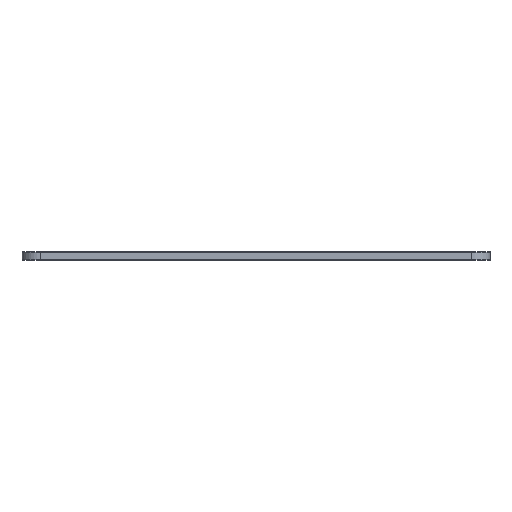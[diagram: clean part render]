
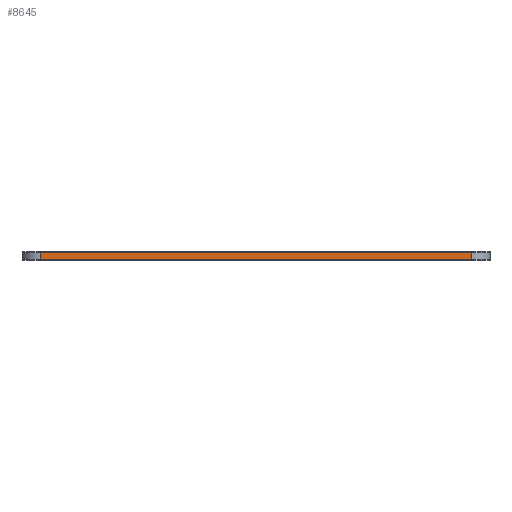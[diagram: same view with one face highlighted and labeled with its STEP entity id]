
A CAD part, front view. The second image highlights one B-rep face of the part: STEP entity #8645.
In plain terms, the highlighted planar face has unit normal (0, -1, 0).
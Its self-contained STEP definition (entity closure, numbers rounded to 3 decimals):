
#4628 = VERTEX_POINT('',#4629);
#4629 = CARTESIAN_POINT('',(3.5,-170.,0.));
#4636 = EDGE_CURVE('',#4637,#4628,#4639,.T.);
#4637 = VERTEX_POINT('',#4638);
#4638 = CARTESIAN_POINT('',(86.5,-170.,0.));
#4639 = LINE('',#4640,#4641);
#4640 = CARTESIAN_POINT('',(86.5,-170.,0.));
#4641 = VECTOR('',#4642,1.);
#4642 = DIRECTION('',(-1.,0.,0.));
#6623 = VERTEX_POINT('',#6624);
#6624 = CARTESIAN_POINT('',(3.5,-170.,1.51));
#6631 = EDGE_CURVE('',#6632,#6623,#6634,.T.);
#6632 = VERTEX_POINT('',#6633);
#6633 = CARTESIAN_POINT('',(86.5,-170.,1.51));
#6634 = LINE('',#6635,#6636);
#6635 = CARTESIAN_POINT('',(86.5,-170.,1.51));
#6636 = VECTOR('',#6637,1.);
#6637 = DIRECTION('',(-1.,0.,0.));
#8617 = EDGE_CURVE('',#4637,#6632,#8618,.T.);
#8618 = LINE('',#8619,#8620);
#8619 = CARTESIAN_POINT('',(86.5,-170.,0.));
#8620 = VECTOR('',#8621,1.);
#8621 = DIRECTION('',(0.,0.,1.));
#8645 = ADVANCED_FACE('',(#8646),#8657,.T.);
#8646 = FACE_BOUND('',#8647,.T.);
#8647 = EDGE_LOOP('',(#8648,#8649,#8650,#8656));
#8648 = ORIENTED_EDGE('',*,*,#8617,.T.);
#8649 = ORIENTED_EDGE('',*,*,#6631,.T.);
#8650 = ORIENTED_EDGE('',*,*,#8651,.F.);
#8651 = EDGE_CURVE('',#4628,#6623,#8652,.T.);
#8652 = LINE('',#8653,#8654);
#8653 = CARTESIAN_POINT('',(3.5,-170.,0.));
#8654 = VECTOR('',#8655,1.);
#8655 = DIRECTION('',(0.,0.,1.));
#8656 = ORIENTED_EDGE('',*,*,#4636,.F.);
#8657 = PLANE('',#8658);
#8658 = AXIS2_PLACEMENT_3D('',#8659,#8660,#8661);
#8659 = CARTESIAN_POINT('',(86.5,-170.,0.));
#8660 = DIRECTION('',(0.,-1.,0.));
#8661 = DIRECTION('',(-1.,0.,0.));
